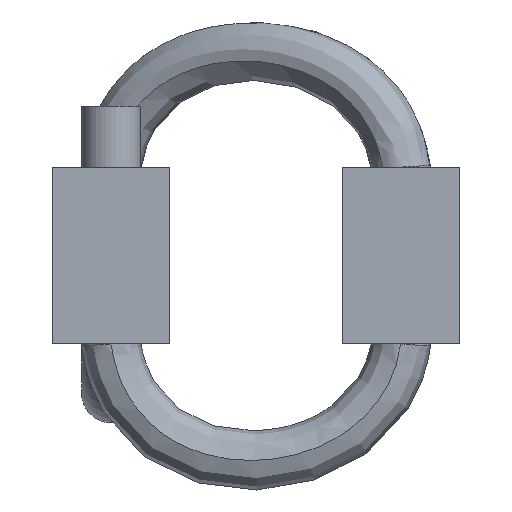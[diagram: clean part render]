
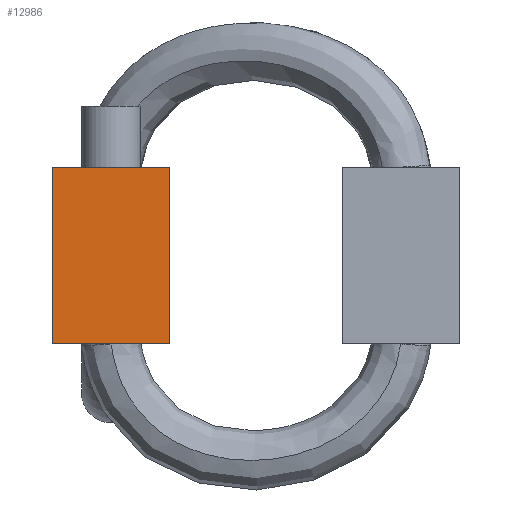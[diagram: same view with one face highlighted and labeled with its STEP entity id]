
A CAD part, left-side view. The second image highlights one B-rep face of the part: STEP entity #12986.
In plain terms, the highlighted planar face has unit normal (-1, 0, 0).
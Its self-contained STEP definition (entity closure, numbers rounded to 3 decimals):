
#345 = EDGE_CURVE ( 'NONE', #2917, #17064, #1504, .T. ) ;
#354 = ORIENTED_EDGE ( 'NONE', *, *, #17464, .F. ) ;
#1188 = LINE ( 'NONE', #15651, #11186 ) ;
#1504 = LINE ( 'NONE', #5365, #15392 ) ;
#1543 = CARTESIAN_POINT ( 'NONE',  ( -63.5, 7., 7.15 ) ) ;
#1882 = DIRECTION ( 'NONE',  ( -1., 0., 0. ) ) ;
#2917 = VERTEX_POINT ( 'NONE', #13141 ) ;
#4040 = DIRECTION ( 'NONE',  ( 0., 0., 1. ) ) ;
#4290 = DIRECTION ( 'NONE',  ( 0., 1., 0. ) ) ;
#4642 = VERTEX_POINT ( 'NONE', #1543 ) ;
#5365 = CARTESIAN_POINT ( 'NONE',  ( -63.5, 16.5, -7.15 ) ) ;
#5479 = EDGE_LOOP ( 'NONE', ( #21782, #7267, #354, #11472 ) ) ;
#7267 = ORIENTED_EDGE ( 'NONE', *, *, #345, .F. ) ;
#8553 = CARTESIAN_POINT ( 'NONE',  ( -63.5, 7., -7.15 ) ) ;
#10236 = FACE_OUTER_BOUND ( 'NONE', #5479, .T. ) ;
#10269 = DIRECTION ( 'NONE',  ( 0., -1., 0. ) ) ;
#10495 = VERTEX_POINT ( 'NONE', #8553 ) ;
#11186 = VECTOR ( 'NONE', #4290, 1000. ) ;
#11472 = ORIENTED_EDGE ( 'NONE', *, *, #18171, .F. ) ;
#12716 = LINE ( 'NONE', #14079, #16576 ) ;
#12969 = AXIS2_PLACEMENT_3D ( 'NONE', #18803, #1882, #15116 ) ;
#12986 = ADVANCED_FACE ( 'NONE', ( #10236 ), #24470, .T. ) ;
#13141 = CARTESIAN_POINT ( 'NONE',  ( -63.5, 16.5, -7.15 ) ) ;
#13347 = DIRECTION ( 'NONE',  ( 0., 0., -1. ) ) ;
#14079 = CARTESIAN_POINT ( 'NONE',  ( -63.5, 16.5, 7.15 ) ) ;
#15082 = EDGE_CURVE ( 'NONE', #17064, #4642, #12716, .T. ) ;
#15116 = DIRECTION ( 'NONE',  ( 0., 0., 1. ) ) ;
#15340 = VECTOR ( 'NONE', #13347, 1000. ) ;
#15392 = VECTOR ( 'NONE', #4040, 1000. ) ;
#15651 = CARTESIAN_POINT ( 'NONE',  ( -63.5, 16.5, -7.15 ) ) ;
#16576 = VECTOR ( 'NONE', #10269, 1000. ) ;
#17064 = VERTEX_POINT ( 'NONE', #17427 ) ;
#17427 = CARTESIAN_POINT ( 'NONE',  ( -63.5, 16.5, 7.15 ) ) ;
#17464 = EDGE_CURVE ( 'NONE', #10495, #2917, #1188, .T. ) ;
#17720 = LINE ( 'NONE', #20707, #15340 ) ;
#18171 = EDGE_CURVE ( 'NONE', #4642, #10495, #17720, .T. ) ;
#18803 = CARTESIAN_POINT ( 'NONE',  ( -63.5, 11.75, 0. ) ) ;
#20707 = CARTESIAN_POINT ( 'NONE',  ( -63.5, 7., -7.15 ) ) ;
#21782 = ORIENTED_EDGE ( 'NONE', *, *, #15082, .F. ) ;
#24470 = PLANE ( 'NONE',  #12969 ) ;
